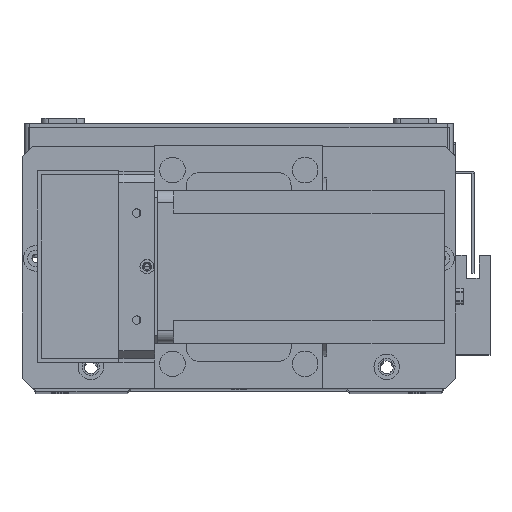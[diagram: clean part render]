
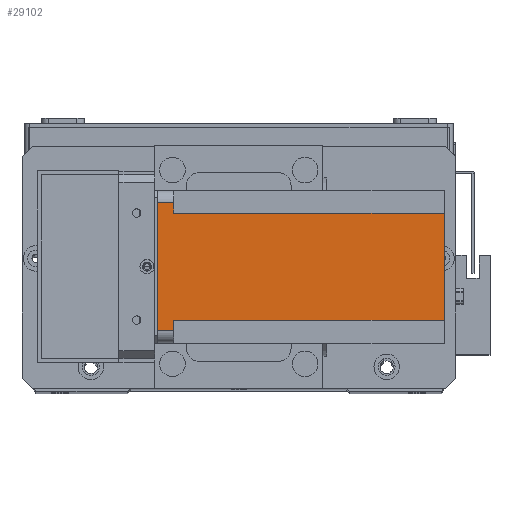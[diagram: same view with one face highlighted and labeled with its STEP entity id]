
A CAD part, top view. The second image highlights one B-rep face of the part: STEP entity #29102.
In plain terms, the highlighted planar face has unit normal (0, 0, 1) as drawn and (-1, 0, 0) by its records, which use the part's own axes.
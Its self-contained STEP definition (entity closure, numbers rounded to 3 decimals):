
#78 = CARTESIAN_POINT ( 'NONE',  ( 0., 0., -112.5 ) ) ;
#1496 = VERTEX_POINT ( 'NONE', #5474 ) ;
#1756 = LINE ( 'NONE', #17763, #26384 ) ;
#2291 = DIRECTION ( 'NONE',  ( 0., -1., 0. ) ) ;
#2500 = DIRECTION ( 'NONE',  ( 0., -1., 0. ) ) ;
#2954 = CARTESIAN_POINT ( 'NONE',  ( 0., 5., -112.5 ) ) ;
#3211 = LINE ( 'NONE', #78, #15140 ) ;
#3313 = ORIENTED_EDGE ( 'NONE', *, *, #10528, .F. ) ;
#3977 = LINE ( 'NONE', #9537, #15905 ) ;
#5474 = CARTESIAN_POINT ( 'NONE',  ( 0., 5., -6.5 ) ) ;
#5532 = VERTEX_POINT ( 'NONE', #26667 ) ;
#5851 = EDGE_CURVE ( 'NONE', #20116, #5532, #29059, .T. ) ;
#6729 = CARTESIAN_POINT ( 'NONE',  ( 0., 9., -6.5 ) ) ;
#7053 = EDGE_CURVE ( 'NONE', #1496, #19253, #1756, .T. ) ;
#7746 = DIRECTION ( 'NONE',  ( 0., 0., 1. ) ) ;
#9537 = CARTESIAN_POINT ( 'NONE',  ( 0., 55., -112.5 ) ) ;
#9611 = VECTOR ( 'NONE', #7746, 1000. ) ;
#10285 = EDGE_CURVE ( 'NONE', #20470, #20116, #11300, .T. ) ;
#10528 = EDGE_CURVE ( 'NONE', #19253, #27637, #29185, .T. ) ;
#11039 = ORIENTED_EDGE ( 'NONE', *, *, #5851, .F. ) ;
#11300 = LINE ( 'NONE', #23244, #24025 ) ;
#11362 = CARTESIAN_POINT ( 'NONE',  ( 0., 0., 0. ) ) ;
#11553 = CARTESIAN_POINT ( 'NONE',  ( 0., 51., -112.5 ) ) ;
#11880 = CARTESIAN_POINT ( 'NONE',  ( 0., 55., 0. ) ) ;
#11929 = DIRECTION ( 'NONE',  ( 0., 0., -1. ) ) ;
#13960 = EDGE_LOOP ( 'NONE', ( #17243, #26936, #22628, #28486, #11039, #22623, #15913, #3313 ) ) ;
#14190 = CARTESIAN_POINT ( 'NONE',  ( 0., 0., -112.5 ) ) ;
#14700 = EDGE_CURVE ( 'NONE', #20470, #27637, #3211, .T. ) ;
#15140 = VECTOR ( 'NONE', #2500, 1000. ) ;
#15297 = CARTESIAN_POINT ( 'NONE',  ( 0., 5., 0. ) ) ;
#15905 = VECTOR ( 'NONE', #11929, 1000. ) ;
#15913 = ORIENTED_EDGE ( 'NONE', *, *, #14700, .T. ) ;
#16411 = VECTOR ( 'NONE', #25429, 1000. ) ;
#16512 = LINE ( 'NONE', #11362, #28414 ) ;
#16534 = VECTOR ( 'NONE', #26615, 1000. ) ;
#16577 = DIRECTION ( 'NONE',  ( -1., 0., 0. ) ) ;
#16699 = LINE ( 'NONE', #2954, #9611 ) ;
#17167 = EDGE_CURVE ( 'NONE', #23853, #22409, #16512, .T. ) ;
#17243 = ORIENTED_EDGE ( 'NONE', *, *, #7053, .F. ) ;
#17763 = CARTESIAN_POINT ( 'NONE',  ( 0., 0., -6.5 ) ) ;
#19253 = VERTEX_POINT ( 'NONE', #6729 ) ;
#19417 = FACE_OUTER_BOUND ( 'NONE', #13960, .T. ) ;
#19566 = EDGE_CURVE ( 'NONE', #1496, #22409, #16699, .T. ) ;
#20116 = VERTEX_POINT ( 'NONE', #26784 ) ;
#20351 = DIRECTION ( 'NONE',  ( 0., 1., 0. ) ) ;
#20470 = VERTEX_POINT ( 'NONE', #11553 ) ;
#20930 = DIRECTION ( 'NONE',  ( 0., 0., 1. ) ) ;
#22409 = VERTEX_POINT ( 'NONE', #15297 ) ;
#22623 = ORIENTED_EDGE ( 'NONE', *, *, #10285, .F. ) ;
#22628 = ORIENTED_EDGE ( 'NONE', *, *, #17167, .F. ) ;
#23244 = CARTESIAN_POINT ( 'NONE',  ( 0., 51., -112.5 ) ) ;
#23286 = DIRECTION ( 'NONE',  ( 0., -1., 0. ) ) ;
#23853 = VERTEX_POINT ( 'NONE', #11880 ) ;
#24025 = VECTOR ( 'NONE', #20930, 1000. ) ;
#24159 = CARTESIAN_POINT ( 'NONE',  ( 0., 9., -112.5 ) ) ;
#25429 = DIRECTION ( 'NONE',  ( 0., 1., 0. ) ) ;
#26384 = VECTOR ( 'NONE', #20351, 1000. ) ;
#26615 = DIRECTION ( 'NONE',  ( 0., 0., -1. ) ) ;
#26667 = CARTESIAN_POINT ( 'NONE',  ( 0., 55., -6.5 ) ) ;
#26784 = CARTESIAN_POINT ( 'NONE',  ( 0., 51., -6.5 ) ) ;
#26936 = ORIENTED_EDGE ( 'NONE', *, *, #19566, .T. ) ;
#27637 = VERTEX_POINT ( 'NONE', #30416 ) ;
#28414 = VECTOR ( 'NONE', #23286, 1000. ) ;
#28429 = PLANE ( 'NONE',  #28566 ) ;
#28486 = ORIENTED_EDGE ( 'NONE', *, *, #30793, .T. ) ;
#28566 = AXIS2_PLACEMENT_3D ( 'NONE', #14190, #16577, #2291 ) ;
#29059 = LINE ( 'NONE', #30296, #16411 ) ;
#29102 = ADVANCED_FACE ( 'NONE', ( #19417 ), #28429, .T. ) ;
#29185 = LINE ( 'NONE', #24159, #16534 ) ;
#30296 = CARTESIAN_POINT ( 'NONE',  ( 0., 60., -6.5 ) ) ;
#30416 = CARTESIAN_POINT ( 'NONE',  ( 0., 9., -112.5 ) ) ;
#30793 = EDGE_CURVE ( 'NONE', #23853, #5532, #3977, .T. ) ;
